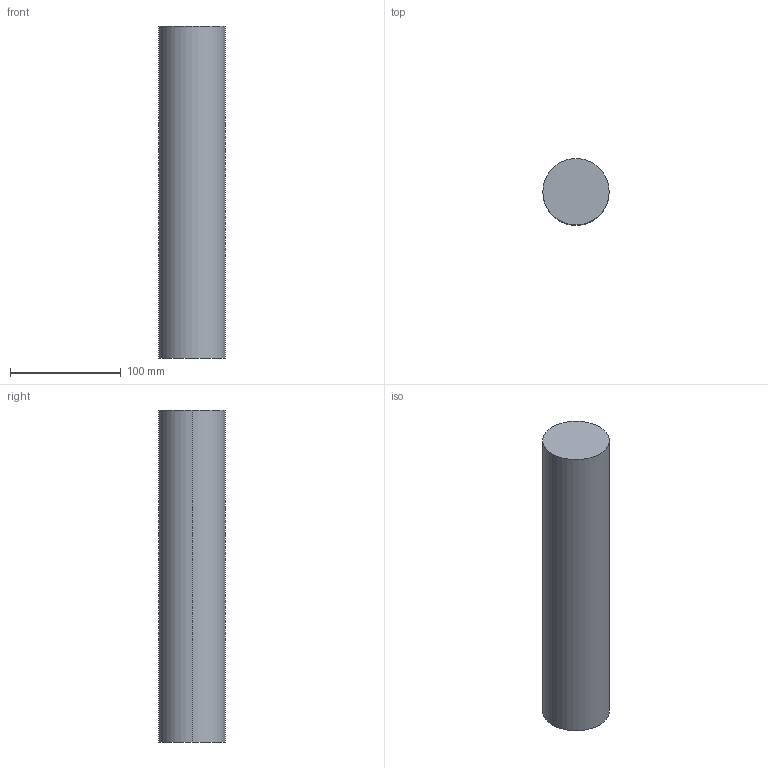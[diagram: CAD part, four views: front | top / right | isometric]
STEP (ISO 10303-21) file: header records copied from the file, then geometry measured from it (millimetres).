
FILE_DESCRIPTION (( 'STEP AP203' ), '1' );
FILE_NAME ('Mounting column Ø60x300 041J004333.STEP', '2009-10-16T08:23:20', ( '' ), ( '' ), 'SwSTEP 2.0', 'SolidWorks 2008', '' );
FILE_SCHEMA (( 'CONFIG_CONTROL_DESIGN' ));
Length unit declared in the file: millimetre
Products named in the file (1): Mounting column Ø60x300 041J004333
Bounding box: 60 x 60 x 300 mm (x, y, z)
Volume: 848230 mm3; surface area: 62203.5 mm2
Topology: 1 solids, 1 shells, 4 faces, 6 edges, 4 vertices
Faces by surface type: cylinder 2, plane 2
Entity records: 171 total; most frequent: DIRECTION 20, CARTESIAN_POINT 15, ORIENTED_EDGE 12, AXIS2_PLACEMENT_3D 9, PERSON_AND_ORGANIZATION 8, EDGE_CURVE 6, CC_DESIGN_PERSON_AND_ORGANIZATION_ASSIGNMENT 5, PERSON_AND_ORGANIZATION_ROLE 5
